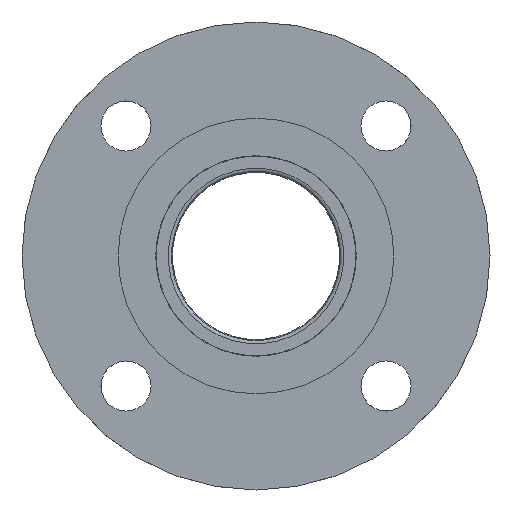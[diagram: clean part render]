
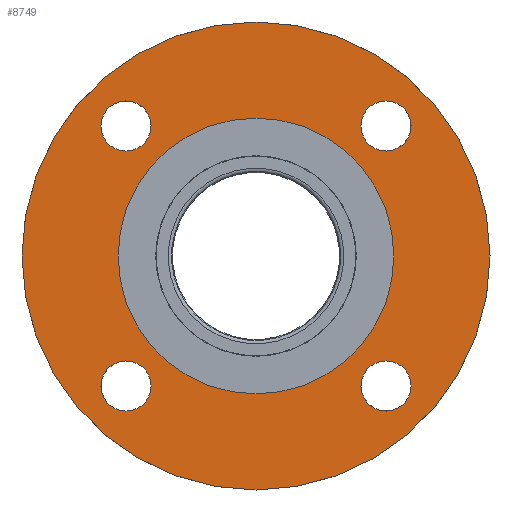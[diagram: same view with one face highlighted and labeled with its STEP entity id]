
A CAD part, front view. The second image highlights one B-rep face of the part: STEP entity #8749.
In plain terms, the highlighted planar face has unit normal (0, -1, 0) as drawn and (0, 1, 0) by its records, which use the part's own axes.
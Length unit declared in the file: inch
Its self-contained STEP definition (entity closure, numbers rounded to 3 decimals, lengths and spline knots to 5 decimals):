
#8534=CARTESIAN_POINT('',(-1.94454,0.5625,2.31954));
#8535=VERTEX_POINT('',#8534);
#8536=CARTESIAN_POINT('',(-1.94454,0.5625,1.94454));
#8537=DIRECTION('',(0.0,-1.0,0.0));
#8538=DIRECTION('',(0.0,0.0,1.0));
#8539=AXIS2_PLACEMENT_3D('',#8536,#8537,#8538);
#8540=CIRCLE('',#8539,0.375);
#8541=EDGE_CURVE('',#8535,#8535,#8540,.T.);
#8562=CARTESIAN_POINT('',(-2.31954,0.5625,-1.94454));
#8563=VERTEX_POINT('',#8562);
#8564=CARTESIAN_POINT('',(-1.94454,0.5625,-1.94454));
#8565=DIRECTION('',(0.0,-1.0,0.0));
#8566=DIRECTION('',(-1.0,0.0,0.0));
#8567=AXIS2_PLACEMENT_3D('',#8564,#8565,#8566);
#8568=CIRCLE('',#8567,0.375);
#8569=EDGE_CURVE('',#8563,#8563,#8568,.T.);
#8590=CARTESIAN_POINT('',(1.94454,0.5625,-2.31954));
#8591=VERTEX_POINT('',#8590);
#8592=CARTESIAN_POINT('',(1.94454,0.5625,-1.94454));
#8593=DIRECTION('',(0.0,-1.0,0.0));
#8594=DIRECTION('',(0.0,0.0,-1.0));
#8595=AXIS2_PLACEMENT_3D('',#8592,#8593,#8594);
#8596=CIRCLE('',#8595,0.375);
#8597=EDGE_CURVE('',#8591,#8591,#8596,.T.);
#8618=CARTESIAN_POINT('',(2.31954,0.5625,1.94454));
#8619=VERTEX_POINT('',#8618);
#8620=CARTESIAN_POINT('',(1.94454,0.5625,1.94454));
#8621=DIRECTION('',(0.0,-1.0,0.0));
#8622=DIRECTION('',(1.0,0.0,0.0));
#8623=AXIS2_PLACEMENT_3D('',#8620,#8621,#8622);
#8624=CIRCLE('',#8623,0.375);
#8625=EDGE_CURVE('',#8619,#8619,#8624,.T.);
#8646=CARTESIAN_POINT('',(2.0625,0.5625,0.));
#8647=VERTEX_POINT('',#8646);
#8648=CARTESIAN_POINT('',(0.0,0.5625,0.0));
#8649=DIRECTION('',(0.0,-1.0,0.0));
#8650=DIRECTION('',(-1.0,0.0,0.0));
#8651=AXIS2_PLACEMENT_3D('',#8648,#8649,#8650);
#8652=CIRCLE('',#8651,2.0625);
#8653=EDGE_CURVE('',#8647,#8647,#8652,.T.);
#8703=CARTESIAN_POINT('',(-3.5,0.5625,0.));
#8704=VERTEX_POINT('',#8703);
#8705=CARTESIAN_POINT('',(0.0,0.5625,0.0));
#8706=DIRECTION('',(0.0,-1.0,0.0));
#8707=DIRECTION('',(1.0,0.0,0.0));
#8708=AXIS2_PLACEMENT_3D('',#8705,#8706,#8707);
#8709=CIRCLE('',#8708,3.5);
#8710=EDGE_CURVE('',#8704,#8704,#8709,.T.);
#8726=CARTESIAN_POINT('',(0.0,0.5625,0.0));
#8727=DIRECTION('',(0.0,-1.0,0.0));
#8728=DIRECTION('',(0.0,0.0,-1.0));
#8729=AXIS2_PLACEMENT_3D('',#8726,#8727,#8728);
#8730=PLANE('',#8729);
#8731=ORIENTED_EDGE('',*,*,#8710,.F.);
#8732=EDGE_LOOP('',(#8731));
#8733=FACE_OUTER_BOUND('',#8732,.T.);
#8734=ORIENTED_EDGE('',*,*,#8541,.T.);
#8735=EDGE_LOOP('',(#8734));
#8736=FACE_BOUND('',#8735,.T.);
#8737=ORIENTED_EDGE('',*,*,#8569,.T.);
#8738=EDGE_LOOP('',(#8737));
#8739=FACE_BOUND('',#8738,.T.);
#8740=ORIENTED_EDGE('',*,*,#8597,.T.);
#8741=EDGE_LOOP('',(#8740));
#8742=FACE_BOUND('',#8741,.T.);
#8743=ORIENTED_EDGE('',*,*,#8625,.T.);
#8744=EDGE_LOOP('',(#8743));
#8745=FACE_BOUND('',#8744,.T.);
#8746=ORIENTED_EDGE('',*,*,#8653,.T.);
#8747=EDGE_LOOP('',(#8746));
#8748=FACE_BOUND('',#8747,.T.);
#8749=ADVANCED_FACE('',(#8733,#8736,#8739,#8742,#8745,#8748),#8730,.F.);
